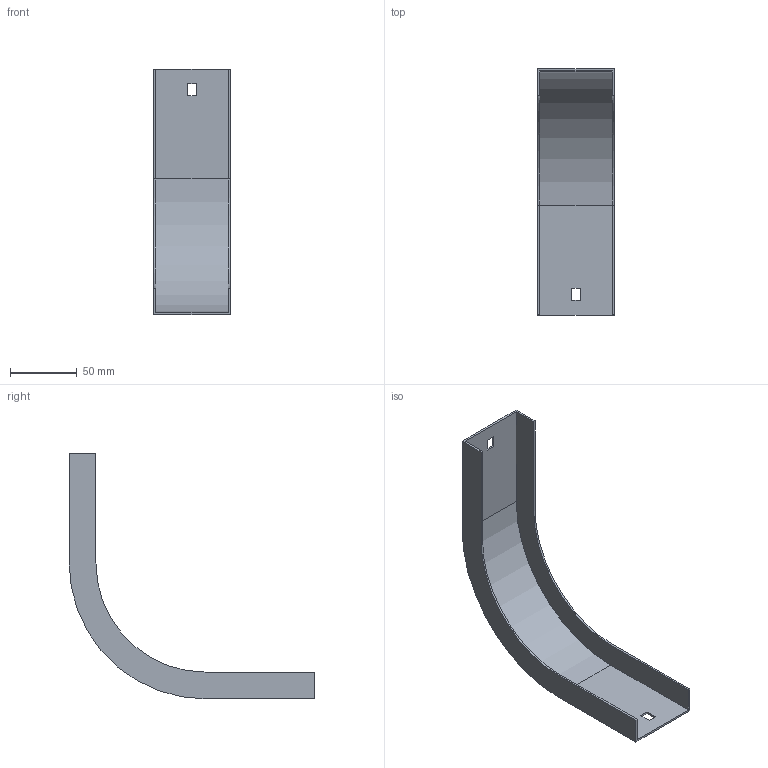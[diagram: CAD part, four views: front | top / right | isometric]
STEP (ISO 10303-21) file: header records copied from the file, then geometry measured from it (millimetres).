
FILE_DESCRIPTION (( 'STEP AP214' ), '1' );
FILE_NAME ('33G1B050.step', '2025-02-21T12:44:06', ( '' ), ( '' ), 'SwSTEP 2.0', 'SolidWorks 2023', '' );
FILE_SCHEMA (( 'AUTOMOTIVE_DESIGN' ));
Length unit declared in the file: millimetre
Products named in the file (1): 33G1B050
Bounding box: 57 x 183.5 x 183.5 mm (x, y, z)
Volume: 44391 mm3; surface area: 60442.7 mm2
Topology: 1 solids, 1 shells, 26 faces, 72 edges, 48 vertices
Faces by surface type: plane 22, cylinder 4
Entity records: 855 total; most frequent: CARTESIAN_POINT 147, ORIENTED_EDGE 144, DIRECTION 134, EDGE_CURVE 72, LINE 64, VECTOR 64, VERTEX_POINT 48, AXIS2_PLACEMENT_3D 35
